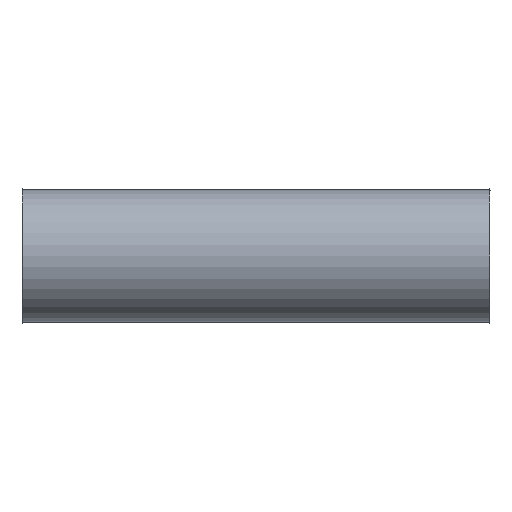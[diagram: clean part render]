
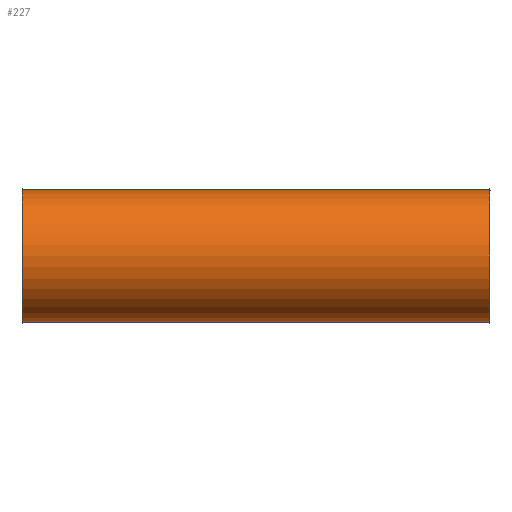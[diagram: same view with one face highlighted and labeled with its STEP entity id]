
A CAD part, front view. The second image highlights one B-rep face of the part: STEP entity #227.
In plain terms, the highlighted cylindrical face has radius 281 mm (diameter 562 mm), a full revolution.
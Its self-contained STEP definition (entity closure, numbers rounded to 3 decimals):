
#112=CARTESIAN_POINT('',(-31.741,2.915,0.0));
#113=VERTEX_POINT('',#112);
#114=CARTESIAN_POINT('',(-31.741,283.915,0.0));
#115=DIRECTION('',(-1.0,0.0,0.0));
#116=DIRECTION('',(0.0,-1.0,0.0));
#117=AXIS2_PLACEMENT_3D('',#114,#115,#116);
#118=CIRCLE('',#117,281.0);
#119=EDGE_CURVE('',#113,#113,#118,.T.);
#204=CARTESIAN_POINT('',(1950.259,2.915,0.0));
#205=VERTEX_POINT('',#204);
#206=CARTESIAN_POINT('',(1950.259,283.915,0.0));
#207=DIRECTION('',(-1.0,0.0,0.0));
#208=DIRECTION('',(0.0,-1.0,0.0));
#209=AXIS2_PLACEMENT_3D('',#206,#207,#208);
#210=CIRCLE('',#209,281.);
#211=EDGE_CURVE('',#205,#205,#210,.T.);
#216=CARTESIAN_POINT('',(959.259,283.915,0.0));
#217=DIRECTION('',(-1.0,0.,0.0));
#218=DIRECTION('',(0.0,-1.0,0.0));
#219=AXIS2_PLACEMENT_3D('',#216,#217,#218);
#220=CYLINDRICAL_SURFACE('',#219,281.);
#221=ORIENTED_EDGE('',*,*,#119,.F.);
#222=EDGE_LOOP('',(#221));
#223=FACE_OUTER_BOUND('',#222,.T.);
#224=ORIENTED_EDGE('',*,*,#211,.T.);
#225=EDGE_LOOP('',(#224));
#226=FACE_BOUND('',#225,.T.);
#227=ADVANCED_FACE('',(#223,#226),#220,.T.);
